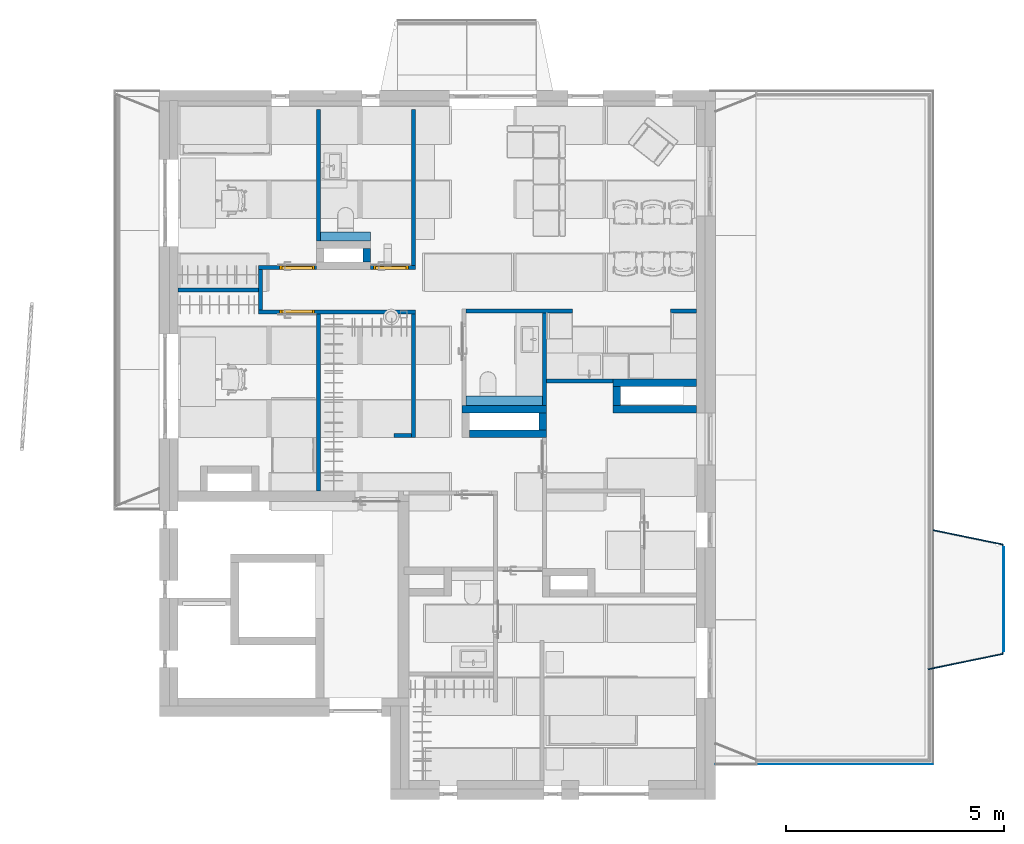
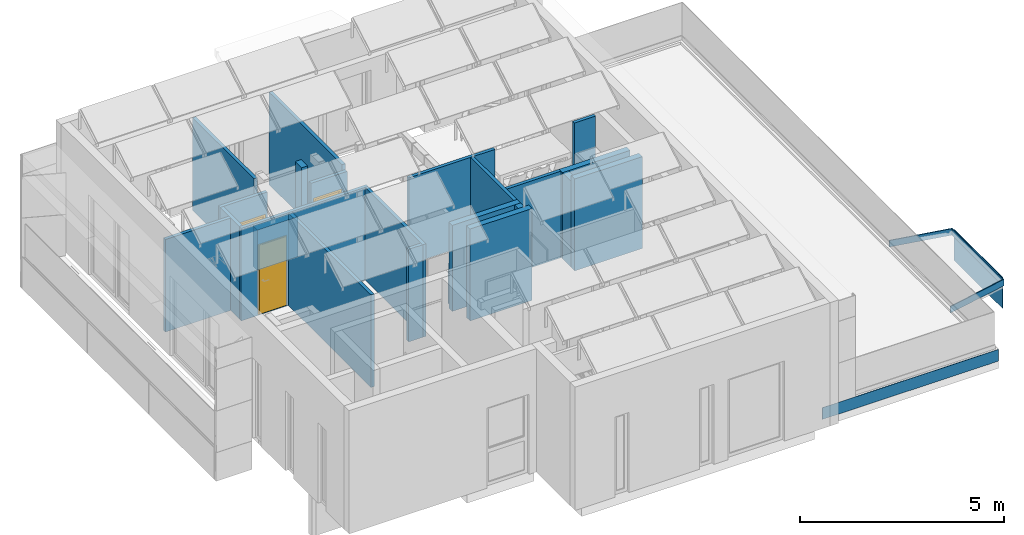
# One storey, part 5 of 57: 28 walls, 3 doors, 3 openings.
"""IFC2X3 building model written with IfcOpenShell, lengths in millimetres."""

from ifc_helpers import new_model, entity, si_unit, converted_unit, direction, frame, frame_2d, origin, place, context, subcontext, project, spatial, polyline, rectangle, outline, extrude, clip, bounded_halfspace, faceted_brep, source, transform, mapped, material, layer, layer_set, layer_usage, type_object, type_shapes, element, fill, save


model = new_model("IFC2X3")

# Units and contexts
model_context = context("Model", 3, precision=0.01, world=origin(), true_north=direction((6.123233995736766e-17, 1.0)))
plan_context = context("Plan", 3, precision=0.01, world=origin(), true_north=direction((6.123233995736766e-17, 1.0)))
body_context = subcontext(model_context, "Body", "Model", "MODEL_VIEW")
ifc_project = project(units=[si_unit("LENGTHUNIT", "METRE", prefix="MILLI"), converted_unit("PLANEANGLEUNIT", "DEGREE", entity("IfcPlaneAngleMeasure", 0.017453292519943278), si_unit("PLANEANGLEUNIT", "RADIAN"), dimensions=[0, 0, 0, 0, 0, 0, 0]), si_unit("AREAUNIT", "SQUARE_METRE")], contexts=[model_context, plan_context])

# Site, building, storey
site_placement = place(None, origin())
site = spatial("IfcSite", under=ifc_project, at=site_placement, Name="Default", CompositionType="ELEMENT")
building_placement = place(site_placement, origin())
building = spatial("IfcBuilding", under=site, at=building_placement, CompositionType="ELEMENT")
storey_placement = place(building_placement, frame((0.0, 0.0, 12811.000000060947)))
storey = spatial("IfcBuildingStorey", under=building, at=storey_placement, Name="5K", CompositionType="ELEMENT", Elevation=12811.000000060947)

# Wall, opening, door
ifc_material_1 = material(Name="_K. Ehitusplaat. Kipsplaat. Erikõva")
ifc_layer_1 = layer(ifc_material_1, 13.000000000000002)
ifc_material_2 = material(Name="_K. Soojustus. Mineraalvill")
ifc_layer_2 = layer(ifc_material_2, 66.0)
ifc_layer_3 = layer(ifc_material_1, 13.000000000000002)
ifc_layer_set_1 = layer_set([ifc_layer_1, ifc_layer_2, ifc_layer_3], Name="Basic Wall:SS-401")
ifc_layer_usage_1 = layer_usage(ifc_layer_set_1, "AXIS2", "NEGATIVE", 46.00000000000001)
wall_type_1 = type_object("IfcWallType", Name="Basic Wall:SS-401", PredefinedType="STANDARD", material=ifc_layer_set_1)
wall_1_placement = place(storey_placement, frame((4420.0, 11776.0, -20.0)))
wall_1 = element("IfcWallStandardCase", 1, at=wall_1_placement, inside=storey, type_object=wall_type_1, material=ifc_layer_usage_1, Name="Basic Wall:SS-401", ObjectType="Basic Wall:SS-401", context=body_context, shape_type="SweptSolid", body=[
    extrude(rectangle(XDim=1023.9999999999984, YDim=92.00000000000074, at=frame_2d((511.9999999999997, -4.014566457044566e-13), x_axis=(-1.0, 0.0))), origin(), (0.0, 0.0, 1.0), 2593.9999999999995),
])
opening_1_placement = place(wall_1_placement, frame((-4420.0, -11776.0, 20.0)))
opening_1 = element("IfcOpeningElement", 2, at=opening_1_placement, cuts=wall_1, Name="Basic Wall:SS-401", ObjectType="Opening", context=body_context, shape_type="Brep", body=[
    faceted_brep([(5286.0, 10730.0, 2100.0), (4486.0, 10730.0, 2100.0), (4486.0, 10730.0, 0.0), (5286.0, 10730.0, 0.0), (5286.0, 12822.0, 0.0), (5286.0, 12822.0, 2100.0), (4486.0, 12822.0, 0.0), (4486.0, 12822.0, 2100.0)], [[[0, 1, 2, 3]], [[3, 4, 5, 0]], [[2, 6, 4, 3]], [[1, 7, 6, 2]], [[5, 7, 1, 0]], [[7, 5, 4, 6]]]),
])
ifc_material_3 = material(Name="_K. Puit. Peitsitud ja lakitud")
door_style_1 = type_object("IfcDoorStyle", Name="HR_Generic_Hinged_Single:Default. Manteluks lävepakuga. 800 x 2100 mm. Left", ConstructionType="NOTDEFINED", OperationType="NOTDEFINED", ParameterTakesPrecedence=False, Sizeable=False, material=ifc_material_3)
shared_shape_1 = source(origin(), body_context, "Body", "Brep", [
    faceted_brep([(765.0, -1000.0, 20.0), (35.0, -1000.0, 20.0), (35.0, -1030.0, 20.0), (50.0, -1030.0, 20.0), (50.0, -1092.0, 20.0), (750.0, -1092.0, 20.0), (750.0, -1030.0, 20.0), (765.0, -1030.0, 20.0), (35.0, -1000.0, 0.0), (765.0, -1000.0, 0.0), (765.0, -1030.0, 0.0), (750.0, -1030.0, 0.0), (750.0, -1092.0, 0.0), (50.0, -1092.0, 0.0), (50.0, -1030.0, 0.0), (35.0, -1030.0, 0.0)], [[[0, 1, 2, 3, 4, 5, 6, 7]], [[8, 9, 10, 11, 12, 13, 14, 15]], [[1, 0, 9, 8]], [[5, 4, 13, 12]], [[2, 1, 8, 15]], [[0, 7, 10, 9]], [[3, 14, 13, 4]], [[14, 3, 2, 15]], [[6, 11, 10, 7]], [[11, 6, 5, 12]]]),
    faceted_brep([(37.0, -1030.0, 2060.0), (37.0, -1030.0, 25.0), (763.0, -1030.0, 25.0), (763.0, -1030.0, 2060.0), (27.0, -990.0, 25.0), (27.0, -990.0, 2070.0), (773.0, -990.0, 2070.0), (773.0, -990.0, 25.0), (37.0, -1000.0, 2060.0), (37.0, -1000.0, 25.0), (27.0, -1000.0, 25.0), (773.0, -1000.0, 25.0), (763.0, -1000.0, 25.0), (763.0, -1000.0, 2060.0), (27.0, -1000.0, 2070.0), (773.0, -1000.0, 2070.0)], [[[0, 1, 2, 3]], [[4, 5, 6, 7]], [[1, 0, 8, 9]], [[2, 1, 9, 10, 4, 7, 11, 12]], [[3, 2, 12, 13]], [[0, 3, 13, 8]], [[14, 10, 9, 8, 13, 12, 11, 15]], [[6, 5, 14, 15]], [[7, 6, 15, 11]], [[5, 4, 10, 14]]]),
    faceted_brep([(800.0, -1092.0, 0.0), (750.0, -1092.0, 0.0), (750.0, -1030.0, 0.0), (765.0, -1030.0, 0.0), (765.0, -1000.0, 0.0), (800.0, -1000.0, 0.0), (800.0, -1092.0, 2100.0), (0.0, -1092.0, 2100.0), (0.0, -1092.0, 0.0), (50.0, -1092.0, 0.0), (50.0, -1092.0, 2050.0), (750.0, -1092.0, 2050.0), (750.0, -1030.0, 2050.0), (35.0, -1030.0, 2065.0), (765.0, -1030.0, 2065.0), (50.0, -1030.0, 2050.0), (50.0, -1030.0, 0.0), (35.0, -1030.0, 0.0), (765.0, -1000.0, 2065.0), (0.0, -1000.0, 0.0), (0.0, -1000.0, 2100.0), (800.0, -1000.0, 2100.0), (35.0, -1000.0, 2065.0), (35.0, -1000.0, 0.0)], [[[0, 1, 2, 3, 4, 5]], [[1, 0, 6, 7, 8, 9, 10, 11]], [[1, 11, 12, 2]], [[13, 14, 3, 2, 12, 15, 16, 17]], [[3, 14, 18, 4]], [[19, 20, 21, 5, 4, 18, 22, 23]], [[0, 5, 21, 6]], [[8, 19, 23, 17, 16, 9]], [[19, 8, 7, 20]], [[13, 17, 23, 22]], [[10, 9, 16, 15]], [[7, 6, 21, 20]], [[11, 10, 15, 12]], [[14, 13, 22, 18]]]),
])
type_shapes(door_style_1, [shared_shape_1])
door_1_placement = place(opening_1_placement, frame((4486.0, 12822.0, 0.0)))
door_1 = element("IfcDoor", 3, at=door_1_placement, inside=storey, type_object=door_style_1, material=ifc_material_3, Name="HR_Generic_Hinged_Single:Default. Manteluks lävepakuga. 800 x 2100 mm. Left", ObjectType="HR_Generic_Hinged_Single:Default. Manteluks lävepakuga. 800 x 2100 mm. Left", OverallHeight=2130.000000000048, OverallWidth=860.0000000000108, context=body_context, shape_type="MappedRepresentation", body=[
    mapped(shared_shape_1, transform((0.0, 0.0, 0.0), scale=1.0)),
])
fill(opening_1, door_1)

# Walls
ifc_layer_usage_2 = layer_usage(ifc_layer_set_1, "AXIS2", "NEGATIVE", 46.00000000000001)
wall_2_placement = place(storey_placement, frame((3226.0, 12380.0, -20.0), z_axis=(0.0, 0.0, 1.0), x_axis=(0.0, 1.0, 0.0)))
element("IfcWallStandardCase", 4, at=wall_2_placement, inside=storey, type_object=wall_type_1, material=ifc_layer_usage_2, Name="Basic Wall:SS-401", ObjectType="Basic Wall:SS-401", context=body_context, shape_type="SweptSolid", body=[
    extrude(rectangle(XDim=3019.9999999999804, YDim=91.99999999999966, at=frame_2d((1509.9999999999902, 8.526512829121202e-14), x_axis=(-1.0, 0.0))), origin(), (0.0, 0.0, 1.0), 2769.998712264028),
])
ifc_layer_usage_3 = layer_usage(ifc_layer_set_1, "AXIS2", "NEGATIVE", 46.00000000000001)
wall_3_placement = place(storey_placement, frame((5398.0, 11822.0, -20.0), z_axis=(0.0, 0.0, 1.0), x_axis=(0.0, 1.0, 0.0)))
element("IfcWallStandardCase", 5, at=wall_3_placement, inside=storey, type_object=wall_type_1, material=ifc_layer_usage_3, Name="Basic Wall:SS-401", ObjectType="Basic Wall:SS-401", context=body_context, shape_type="SweptSolid", body=[
    extrude(rectangle(XDim=3577.9999999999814, YDim=92.00000000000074, at=frame_2d((1788.9999999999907, 2.8066438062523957e-13), x_axis=(-1.0, 0.0))), origin(), (0.0, 0.0, 1.0), 2769.998712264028),
])

# Wall, opening, door
ifc_layer_usage_4 = layer_usage(ifc_layer_set_1, "AXIS2", "NEGATIVE", 46.00000000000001)
wall_4_placement = place(storey_placement, frame((1848.0, 11776.0, -20.0)))
wall_4 = element("IfcWallStandardCase", 6, at=wall_4_placement, inside=storey, type_object=wall_type_1, material=ifc_layer_usage_4, Name="Basic Wall:SS-401", ObjectType="Basic Wall:SS-401", context=body_context, shape_type="SweptSolid", body=[
    extrude(rectangle(XDim=1331.9999999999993, YDim=92.00000000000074, at=frame_2d((665.9999999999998, -2.035704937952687e-12), x_axis=(-1.0, 0.0))), origin(), (0.0, 0.0, 1.0), 2769.998712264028),
])
opening_2_placement = place(wall_4_placement, frame((-1848.0, -11776.0, 20.0)))
opening_2 = element("IfcOpeningElement", 7, at=opening_2_placement, cuts=wall_4, Name="Basic Wall:SS-401", ObjectType="Opening", context=body_context, shape_type="Brep", body=[
    faceted_brep([(3130.0, 10730.0, 2100.0), (2330.0, 10730.0, 2100.0), (2330.0, 10730.0, 0.0), (3130.0, 10730.0, 0.0), (3130.0, 12822.0, 0.0), (3130.0, 12822.0, 2100.0), (2330.0, 12822.0, 0.0), (2330.0, 12822.0, 2100.0)], [[[0, 1, 2, 3]], [[3, 4, 5, 0]], [[2, 6, 4, 3]], [[1, 7, 6, 2]], [[5, 7, 1, 0]], [[7, 5, 4, 6]]]),
])
door_2_placement = place(opening_2_placement, frame((2330.0, 12822.0, 0.0)))
door_2 = element("IfcDoor", 8, at=door_2_placement, inside=storey, type_object=door_style_1, material=ifc_material_3, Name="HR_Generic_Hinged_Single:Default. Manteluks lävepakuga. 800 x 2100 mm. Left", ObjectType="HR_Generic_Hinged_Single:Default. Manteluks lävepakuga. 800 x 2100 mm. Left", OverallHeight=2130.000000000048, OverallWidth=860.0000000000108, context=body_context, shape_type="MappedRepresentation", body=[
    mapped(shared_shape_1, transform((0.0, 0.0, 0.0), scale=1.0)),
])
fill(opening_2, door_2)

ifc_layer_usage_5 = layer_usage(ifc_layer_set_1, "AXIS2", "NEGATIVE", 46.00000000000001)
wall_5_placement = place(storey_placement, frame((1848.0, 10747.0, -20.0)))
wall_5 = element("IfcWallStandardCase", 9, at=wall_5_placement, inside=storey, type_object=wall_type_1, material=ifc_layer_usage_5, Name="Basic Wall:SS-401", ObjectType="Basic Wall:SS-401", context=body_context, shape_type="SweptSolid", body=[
    extrude(rectangle(XDim=3595.999999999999, YDim=92.00000000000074, at=frame_2d((1797.9999999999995, -2.984279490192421e-13), x_axis=(-1.0, 0.0))), origin(), (0.0, 0.0, 1.0), 2769.998712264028),
])
opening_3_placement = place(wall_5_placement, frame((-1848.0, -10747.0, 20.0)))
opening_3 = element("IfcOpeningElement", 10, at=opening_3_placement, cuts=wall_5, Name="Basic Wall:SS-401", ObjectType="Opening", context=body_context, shape_type="Brep", body=[
    faceted_brep([(2330.0, 11793.0, 2100.0), (3130.0, 11793.0, 2100.0), (3130.0, 11793.0, 0.0), (2330.0, 11793.0, 0.0), (2330.0, 9701.0, 0.0), (2330.0, 9701.0, 2100.0), (3130.0, 9701.0, 0.0), (3130.0, 9701.0, 2100.0)], [[[0, 1, 2, 3]], [[3, 4, 5, 0]], [[2, 6, 4, 3]], [[1, 7, 6, 2]], [[5, 7, 1, 0]], [[7, 5, 4, 6]]]),
])
door_style_2 = type_object("IfcDoorStyle", Name="HR_Generic_Hinged_Single:Default. Manteluks lävepakuga. 800 x 2100 mm. Right", ConstructionType="NOTDEFINED", OperationType="NOTDEFINED", ParameterTakesPrecedence=False, Sizeable=False, material=ifc_material_3)
shared_shape_2 = source(origin(), body_context, "Body", "Brep", [
    faceted_brep([(765.0, 1092.0, 20.0), (35.0, 1092.0, 20.0), (35.0, 1062.0, 20.0), (50.0, 1062.0, 20.0), (50.0, 1000.0, 20.0), (750.0, 1000.0, 20.0), (750.0, 1062.0, 20.0), (765.0, 1062.0, 20.0), (35.0, 1092.0, 0.0), (765.0, 1092.0, 0.0), (765.0, 1062.0, 0.0), (750.0, 1062.0, 0.0), (750.0, 1000.0, 0.0), (50.0, 1000.0, 0.0), (50.0, 1062.0, 0.0), (35.0, 1062.0, 0.0)], [[[0, 1, 2, 3, 4, 5, 6, 7]], [[8, 9, 10, 11, 12, 13, 14, 15]], [[1, 0, 9, 8]], [[5, 4, 13, 12]], [[2, 1, 8, 15]], [[0, 7, 10, 9]], [[3, 14, 13, 4]], [[14, 3, 2, 15]], [[6, 11, 10, 7]], [[11, 6, 5, 12]]]),
    faceted_brep([(37.0, 1062.0, 2060.0), (37.0, 1062.0, 25.0), (763.0, 1062.0, 25.0), (763.0, 1062.0, 2060.0), (27.0, 1102.0, 25.0), (27.0, 1102.0, 2070.0), (773.0, 1102.0, 2070.0), (773.0, 1102.0, 25.0), (37.0, 1092.0, 2060.0), (37.0, 1092.0, 25.0), (27.0, 1092.0, 25.0), (773.0, 1092.0, 25.0), (763.0, 1092.0, 25.0), (763.0, 1092.0, 2060.0), (27.0, 1092.0, 2070.0), (773.0, 1092.0, 2070.0)], [[[0, 1, 2, 3]], [[4, 5, 6, 7]], [[1, 0, 8, 9]], [[2, 1, 9, 10, 4, 7, 11, 12]], [[3, 2, 12, 13]], [[0, 3, 13, 8]], [[14, 10, 9, 8, 13, 12, 11, 15]], [[6, 5, 14, 15]], [[7, 6, 15, 11]], [[5, 4, 10, 14]]]),
    faceted_brep([(800.0, 1000.0, 0.0), (750.0, 1000.0, 0.0), (750.0, 1062.0, 0.0), (765.0, 1062.0, 0.0), (765.0, 1092.0, 0.0), (800.0, 1092.0, 0.0), (800.0, 1000.0, 2100.0), (0.0, 1000.0, 2100.0), (0.0, 1000.0, 0.0), (50.0, 1000.0, 0.0), (50.0, 1000.0, 2050.0), (750.0, 1000.0, 2050.0), (750.0, 1062.0, 2050.0), (35.0, 1062.0, 2065.0), (765.0, 1062.0, 2065.0), (50.0, 1062.0, 2050.0), (50.0, 1062.0, 0.0), (35.0, 1062.0, 0.0), (765.0, 1092.0, 2065.0), (0.0, 1092.0, 0.0), (0.0, 1092.0, 2100.0), (800.0, 1092.0, 2100.0), (35.0, 1092.0, 2065.0), (35.0, 1092.0, 0.0)], [[[0, 1, 2, 3, 4, 5]], [[1, 0, 6, 7, 8, 9, 10, 11]], [[1, 11, 12, 2]], [[13, 14, 3, 2, 12, 15, 16, 17]], [[3, 14, 18, 4]], [[19, 20, 21, 5, 4, 18, 22, 23]], [[0, 5, 21, 6]], [[8, 19, 23, 17, 16, 9]], [[19, 8, 7, 20]], [[13, 17, 23, 22]], [[10, 9, 16, 15]], [[7, 6, 21, 20]], [[11, 10, 15, 12]], [[14, 13, 22, 18]]]),
])
type_shapes(door_style_2, [shared_shape_2])
door_3_placement = place(opening_3_placement, frame((3130.0, 11793.0, 0.0), z_axis=(0.0, 0.0, 1.0), x_axis=(-1.0, 0.0, 0.0)))
door_3 = element("IfcDoor", 11, at=door_3_placement, inside=storey, type_object=door_style_2, material=ifc_material_3, Name="HR_Generic_Hinged_Single:Default. Manteluks lävepakuga. 800 x 2100 mm. Right", ObjectType="HR_Generic_Hinged_Single:Default. Manteluks lävepakuga. 800 x 2100 mm. Right", OverallHeight=2130.000000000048, OverallWidth=860.0000000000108, context=body_context, shape_type="MappedRepresentation", body=[
    mapped(shared_shape_2, transform((0.0, 0.0, 0.0), scale=1.0)),
])
fill(opening_3, door_3)

# Walls
ifc_layer_usage_6 = layer_usage(ifc_layer_set_1, "AXIS2", "NEGATIVE", 46.00000000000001)
wall_6_placement = place(storey_placement, frame((5398.0, 7870.0, -20.0), z_axis=(0.0, 0.0, 1.0), x_axis=(0.0, 1.0, 0.0)))
element("IfcWallStandardCase", 12, at=wall_6_placement, inside=storey, type_object=wall_type_1, material=ifc_layer_usage_6, Name="Basic Wall:SS-401", ObjectType="Basic Wall:SS-401", context=body_context, shape_type="SweptSolid", body=[
    extrude(rectangle(XDim=2830.9999999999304, YDim=92.00000000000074, at=frame_2d((1415.4999999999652, -3.446132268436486e-13), x_axis=(-1.0, 0.0))), origin(), (0.0, 0.0, 1.0), 2769.998712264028),
])
ifc_layer_usage_7 = layer_usage(ifc_layer_set_1, "AXIS2", "NEGATIVE", 46.00000000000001)
wall_7_placement = place(storey_placement, frame((1894.0, 10793.0, -20.0), z_axis=(0.0, 0.0, 1.0), x_axis=(0.0, 1.0, 0.0)))
element("IfcWallStandardCase", 13, at=wall_7_placement, inside=storey, type_object=wall_type_1, material=ifc_layer_usage_7, Name="Basic Wall:SS-401", ObjectType="Basic Wall:SS-401", context=body_context, shape_type="SweptSolid", body=[
    extrude(rectangle(XDim=937.0000000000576, YDim=92.0000000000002, at=frame_2d((468.5000000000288, 1.0658141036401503e-13), x_axis=(-1.0, 0.0))), origin(), (0.0, 0.0, 1.0), 2769.998712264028),
])
ifc_layer_usage_8 = layer_usage(ifc_layer_set_1, "AXIS2", "NEGATIVE", 46.00000000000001)
wall_8_placement = place(storey_placement, frame((0.0, 11261.499999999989, -20.0)))
element("IfcWallStandardCase", 14, at=wall_8_placement, inside=storey, type_object=wall_type_1, material=ifc_layer_usage_8, Name="Basic Wall:SS-401", ObjectType="Basic Wall:SS-401", context=body_context, shape_type="SweptSolid", body=[
    extrude(rectangle(XDim=1848.0000000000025, YDim=92.00000000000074, at=frame_2d((924.0000000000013, -6.394884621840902e-14), x_axis=(-1.0, 0.0))), origin(), (0.0, 0.0, 1.0), 2769.998712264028),
])
ifc_layer_usage_9 = layer_usage(ifc_layer_set_1, "AXIS2", "NEGATIVE", 46.00000000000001)
wall_9_placement = place(storey_placement, frame((3226.0, 6644.999959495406, -20.0), z_axis=(0.0, 0.0, 1.0), x_axis=(0.0, 1.0, 0.0)))
element("IfcWallStandardCase", 15, at=wall_9_placement, inside=storey, type_object=wall_type_1, material=ifc_layer_usage_9, Name="Basic Wall:SS-401", ObjectType="Basic Wall:SS-401", context=body_context, shape_type="SweptSolid", body=[
    extrude(rectangle(XDim=4056.0000405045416, YDim=91.99999999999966, at=frame_2d((2028.0000202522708, -1.3500311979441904e-13), x_axis=(-1.0, 0.0))), origin(), (0.0, 0.0, 1.0), 2769.998712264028),
])
ifc_layer_usage_10 = layer_usage(ifc_layer_set_1, "AXIS2", "NEGATIVE", 46.00000000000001)
wall_10_placement = place(storey_placement, frame((8404.0, 8610.0, -20.0), z_axis=(0.0, 0.0, 1.0), x_axis=(0.0, 1.0, 0.0)))
element("IfcWallStandardCase", 16, at=wall_10_placement, inside=storey, type_object=wall_type_1, material=ifc_layer_usage_10, Name="Basic Wall:SS-401", ObjectType="Basic Wall:SS-401", context=body_context, shape_type="SweptSolid", body=[
    extrude(rectangle(XDim=2122.9999999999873, YDim=92.00000000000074, at=frame_2d((1061.4999999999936, 1.4921397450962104e-13), x_axis=(-1.0, 0.0))), origin(), (0.0, 0.0, 1.0), 2593.9999999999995),
])
ifc_layer_usage_11 = layer_usage(ifc_layer_set_1, "AXIS2", "NEGATIVE", 46.00000000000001)
wall_11_placement = place(storey_placement, frame((8450.0, 9164.0, -20.0)))
element("IfcWallStandardCase", 17, at=wall_11_placement, inside=storey, type_object=wall_type_1, material=ifc_layer_usage_11, Name="Basic Wall:SS-401", ObjectType="Basic Wall:SS-401", context=body_context, shape_type="SweptSolid", body=[
    extrude(rectangle(XDim=1529.9999999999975, YDim=92.00000000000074, at=frame_2d((764.9999999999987, -7.105427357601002e-14), x_axis=(-1.0, 0.0))), origin(), (0.0, 0.0, 1.0), 2593.9999999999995),
])
ifc_layer_usage_12 = layer_usage(ifc_layer_set_1, "AXIS2", "NEGATIVE", 46.00000000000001)
wall_12_placement = place(storey_placement, frame((11300.0, 10779.0, -20.0)))
element("IfcWallStandardCase", 18, at=wall_12_placement, inside=storey, type_object=wall_type_1, material=ifc_layer_usage_12, Name="Basic Wall:SS-401", ObjectType="Basic Wall:SS-401", context=body_context, shape_type="SweptSolid", body=[
    extrude(rectangle(XDim=600.0000000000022, YDim=92.00000000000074, at=frame_2d((300.0000000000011, -4.973799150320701e-14), x_axis=(-1.0, 0.0))), origin(), (0.0, 0.0, 1.0), 2593.9999999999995),
])
ifc_layer_usage_13 = layer_usage(ifc_layer_set_1, "AXIS2", "NEGATIVE", 46.00000000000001)
wall_13_placement = place(storey_placement, frame((6612.0, 10779.0, -20.0)))
element("IfcWallStandardCase", 19, at=wall_13_placement, inside=storey, type_object=wall_type_1, material=ifc_layer_usage_13, Name="Basic Wall:SS-401", ObjectType="Basic Wall:SS-401", context=body_context, shape_type="SweptSolid", body=[
    extrude(rectangle(XDim=2438.000000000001, YDim=92.00000000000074, at=frame_2d((1219.0000000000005, -1.3145040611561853e-13), x_axis=(-1.0, 0.0))), origin(), (0.0, 0.0, 1.0), 2593.9999999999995),
])
ifc_layer_usage_14 = layer_usage(ifc_layer_set_1, "AXIS2", "NEGATIVE", 46.00000000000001)
wall_14_placement = place(storey_placement, frame((4952.0, 7916.0, -20.0)))
element("IfcWallStandardCase", 20, at=wall_14_placement, inside=storey, type_object=wall_type_1, material=ifc_layer_usage_14, Name="Basic Wall:SS-401", ObjectType="Basic Wall:SS-401", context=body_context, shape_type="SweptSolid", body=[
    extrude(rectangle(XDim=400.0000000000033, YDim=92.00000000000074, at=frame_2d((200.00000000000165, 1.4921397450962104e-13), x_axis=(-1.0, 0.0))), origin(), (0.0, 0.0, 1.0), 2769.998712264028),
])
ifc_material_4 = material(Name="_K. Väisviimistlus. Krohv. Valge")
ifc_layer_4 = layer(ifc_material_4, 10.0)
ifc_material_5 = material(Name="_K. Müüritis. Väikeplokk. Kergkruusplokk")
ifc_layer_5 = layer(ifc_material_5, 150.0)
ifc_layer_6 = layer(ifc_material_4, 10.0)
ifc_layer_set_2 = layer_set([ifc_layer_4, ifc_layer_5, ifc_layer_6], Name="Basic Wall:SS-03. Šahti sein")
ifc_layer_usage_15 = layer_usage(ifc_layer_set_2, "AXIS2", "NEGATIVE", 85.00000000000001)
wall_type_2 = type_object("IfcWallType", Name="Basic Wall:SS-03. Šahti sein", PredefinedType="STANDARD", material=ifc_layer_set_2)
wall_15_placement = place(storey_placement, frame((9980.0, 9125.0, 0.0)))
element("IfcWallStandardCase", 21, at=wall_15_placement, inside=storey, type_object=wall_type_2, material=ifc_layer_usage_15, Name="Basic Wall:SS-03. Šahti sein", ObjectType="Basic Wall:SS-03. Šahti sein", context=body_context, shape_type="SweptSolid", body=[
    extrude(rectangle(XDim=1920.0000000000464, YDim=170.00000000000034, at=frame_2d((960.0000000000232, -1.6342482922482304e-13), x_axis=(-1.0, 0.0))), origin(), (0.0, 0.0, 1.0), 2573.9999237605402),
])
ifc_layer_usage_16 = layer_usage(ifc_layer_set_2, "AXIS2", "NEGATIVE", 85.00000000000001)
wall_16_placement = place(storey_placement, frame((6520.0, 8525.0, 0.0)))
element("IfcWallStandardCase", 22, at=wall_16_placement, inside=storey, type_object=wall_type_2, material=ifc_layer_usage_16, Name="Basic Wall:SS-03. Šahti sein", ObjectType="Basic Wall:SS-03. Šahti sein", context=body_context, shape_type="SweptSolid", body=[
    extrude(rectangle(XDim=1930.000000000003, YDim=170.00000000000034, at=frame_2d((965.0000000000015, -1.4210854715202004e-13), x_axis=(-1.0, 0.0))), origin(), (0.0, 0.0, 1.0), 2573.9999237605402),
])
ifc_layer_usage_17 = layer_usage(ifc_layer_set_2, "AXIS2", "NEGATIVE", 85.00000000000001)
wall_17_placement = place(storey_placement, frame((9980.0, 8525.0, 0.0)))
element("IfcWallStandardCase", 23, at=wall_17_placement, inside=storey, type_object=wall_type_2, material=ifc_layer_usage_17, Name="Basic Wall:SS-03. Šahti sein", ObjectType="Basic Wall:SS-03. Šahti sein", context=body_context, shape_type="SweptSolid", body=[
    extrude(rectangle(XDim=1920.0000000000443, YDim=170.00000000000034, at=frame_2d((960.0000000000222, 5.684341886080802e-14), x_axis=(-1.0, 0.0))), origin(), (0.0, 0.0, 1.0), 2749.998712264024),
])
ifc_layer_usage_18 = layer_usage(ifc_layer_set_2, "AXIS2", "POSITIVE", -85.00000000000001)
wall_18_placement = place(storey_placement, frame((10065.0, 9040.0, 0.0), z_axis=(0.0, 0.0, 1.0), x_axis=(0.0, -1.0, 0.0)))
element("IfcWallStandardCase", 24, at=wall_18_placement, inside=storey, type_object=wall_type_2, material=ifc_layer_usage_18, Name="Basic Wall:SS-03. Šahti sein", ObjectType="Basic Wall:SS-03. Šahti sein", context=body_context, shape_type="SweptSolid", body=[
    extrude(rectangle(XDim=430.00000000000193, YDim=170.00000000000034, at=frame_2d((215.00000000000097, 3.765876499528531e-13), x_axis=(-1.0, 0.0))), origin(), (0.0, 0.0, 1.0), 2573.9999237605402),
])
ifc_layer_usage_19 = layer_usage(ifc_layer_set_2, "AXIS2", "POSITIVE", -85.00000000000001)
wall_19_placement = place(storey_placement, frame((6690.0, 7955.0, 0.0)))
element("IfcWallStandardCase", 25, at=wall_19_placement, inside=storey, type_object=wall_type_2, material=ifc_layer_usage_19, Name="Basic Wall:SS-03. Šahti sein", ObjectType="Basic Wall:SS-03. Šahti sein", context=body_context, shape_type="SweptSolid", body=[
    extrude(rectangle(XDim=1760.0000000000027, YDim=170.00000000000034, at=frame_2d((880.0000000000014, -1.2079226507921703e-13), x_axis=(-1.0, 0.0))), origin(), (0.0, 0.0, 1.0), 2749.998712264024),
])
ifc_layer_usage_20 = layer_usage(ifc_layer_set_2, "AXIS2", "NEGATIVE", 85.00000000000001)
wall_20_placement = place(storey_placement, frame((8365.0, 8440.0, 0.0), z_axis=(0.0, 0.0, 1.0), x_axis=(0.0, -1.0, 0.0)))
element("IfcWallStandardCase", 26, at=wall_20_placement, inside=storey, type_object=wall_type_2, material=ifc_layer_usage_20, Name="Basic Wall:SS-03. Šahti sein", ObjectType="Basic Wall:SS-03. Šahti sein", context=body_context, shape_type="SweptSolid", body=[
    extrude(rectangle(XDim=400.00000000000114, YDim=170.00000000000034, at=frame_2d((200.00000000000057, 1.4210854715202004e-13), x_axis=(-1.0, 0.0))), origin(), (0.0, 0.0, 1.0), 2573.9999237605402),
])
ifc_layer_usage_21 = layer_usage(ifc_layer_set_2, "AXIS2", "NEGATIVE", 85.00000000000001)
wall_21_placement = place(storey_placement, frame((4335.0, 12210.0, 0.0), z_axis=(0.0, 0.0, 1.0), x_axis=(0.0, -1.0, 0.0)))
element("IfcWallStandardCase", 27, at=wall_21_placement, inside=storey, type_object=wall_type_2, material=ifc_layer_usage_21, Name="Basic Wall:SS-03. Šahti sein", ObjectType="Basic Wall:SS-03. Šahti sein", context=body_context, shape_type="SweptSolid", body=[
    extrude(rectangle(XDim=310.0000000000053, YDim=170.00000000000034, at=frame_2d((155.00000000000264, 2.1316282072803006e-13), x_axis=(-1.0, 0.0))), origin(), (0.0, 0.0, 1.0), 2993.9999999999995),
])
ifc_layer_7 = layer(ifc_material_4, 10.0)
ifc_layer_set_3 = layer_set([ifc_layer_7], Name="Basic Wall:VS-01 krohv")
ifc_layer_usage_22 = layer_usage(ifc_layer_set_3, "AXIS2", "NEGATIVE", 5.0)
wall_type_3 = type_object("IfcWallType", Name="Basic Wall:VS-01 krohv", PredefinedType="STANDARD", material=ifc_layer_set_3)
wall_22_placement = place(storey_placement, frame((17320.0, 375.0, -375.625832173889), z_axis=(0.0, 0.0, 1.0), x_axis=(-1.0, 0.0, 0.0)))
element("IfcWallStandardCase", 28, at=wall_22_placement, inside=storey, type_object=wall_type_3, material=ifc_layer_usage_22, Name="Basic Wall:VS-01 krohv", ObjectType="Basic Wall:VS-01 krohv", context=body_context, shape_type="Clipping", body=[
    clip(clip(extrude(rectangle(XDim=4990.0000000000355, YDim=10.000000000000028, at=frame_2d((2495.0000000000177, 1.021405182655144e-14), x_axis=(-1.0, 0.0))), origin(), (0.0, 0.0, 1.0), 350.62583217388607), bounded_halfspace(frame((230.0, -5.0, 4.625977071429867), z_axis=(1.0, 0.0, 0.0), x_axis=(0.0, 1.0, 0.0)), True, frame((230.0, -5.0, 4.625977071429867), z_axis=(1.0, 0.0, 0.0), x_axis=(0.0, 1.0, 0.0)), polyline([(0.0, 0.0), (0.0, -4.625977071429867), (10.0, -4.625977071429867), (10.0, 0.0), (0.0, 0.0)]))), bounded_halfspace(frame((230.0, 5.0, 4.625977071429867), z_axis=(0.0, 0.0, 1.0), x_axis=(-1.0, 0.0, 0.0)), True, frame((230.0, 5.0, 4.625977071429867), z_axis=(0.0, 0.0, 1.0), x_axis=(-1.0, 0.0, 0.0)), polyline([(0.0, 0.0), (230.0, 0.0), (230.0, 10.0), (0.0, 10.0), (0.0, 0.0)]))),
])
ifc_material_6 = material(Name="_K. Välisviimistlus. Alumiinium-komposiitplaat")
ifc_layer_8 = layer(ifc_material_6, 4.0)
ifc_material_7 = material(Name="_K. Õhk. Roov. Fassaadikatte alusroov. Horisontaalne. 25 mm")
ifc_layer_9 = layer(ifc_material_7, 16.0)
ifc_layer_set_4 = layer_set([ifc_layer_8, ifc_layer_9], Name="Basic Wall:VS-komposiit")
ifc_layer_usage_23 = layer_usage(ifc_layer_set_4, "AXIS2", "NEGATIVE", 10.000000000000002)
wall_type_4 = type_object("IfcWallType", Name="Basic Wall:VS-komposiit", PredefinedType="STANDARD")
wall_23_placement = place(storey_placement, frame((18942.0, 5351.353411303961, -938.500000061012), z_axis=(0.0, 0.0, 1.0), x_axis=(0.0, -1.0, 0.0)))
element("IfcWallStandardCase", 29, at=wall_23_placement, inside=storey, type_object=wall_type_4, material=ifc_layer_usage_23, Name="Basic Wall:VS-komposiit", ObjectType="Basic Wall:VS-komposiit", context=body_context, shape_type="SweptSolid", body=[
    extrude(rectangle(XDim=2379.349331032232, YDim=19.999999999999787, at=frame_2d((1189.674665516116, 9.174883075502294e-13), x_axis=(-1.0, 0.0))), origin(), (0.0, 0.0, 1.0), 917.5000000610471),
])
ifc_material_8 = material(Name="_K. Katusekate. Rullmaterjal. SBS")
ifc_layer_10 = layer(ifc_material_8, 10.0)
ifc_material_9 = material(Name="_K. Ehitusplaat. Vineer. Veekindel")
ifc_layer_11 = layer(ifc_material_9, 15.0)
ifc_layer_set_5 = layer_set([ifc_layer_10, ifc_layer_11], Name="Basic Wall:VS-Rõdu parapet")
ifc_layer_usage_24 = layer_usage(ifc_layer_set_5, "AXIS2", "NEGATIVE", 12.5)
wall_type_5 = type_object("IfcWallType", Name="Basic Wall:VS-Rõdu parapet", PredefinedType="STANDARD", material=ifc_layer_set_5)
wall_24_placement = place(storey_placement, frame((17210.0, 2552.8400905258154, -216.0), z_axis=(0.0, 0.0, 1.0), x_axis=(0.9793890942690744, 0.20198267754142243, 0.0)))
element("IfcWallStandardCase", 30, at=wall_24_placement, inside=storey, type_object=wall_type_5, material=ifc_layer_usage_24, Name="Basic Wall:VS-Rõdu parapet", ObjectType="Basic Wall:VS-Rõdu parapet", context=body_context, shape_type="SweptSolid", body=[
    extrude(outline(polyline([(1755.6672989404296, -12.499999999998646), (1760.823068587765, 12.500000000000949), (1735.2969650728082, 12.500000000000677), (0.0, 12.500000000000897), (0.0, -12.499999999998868), (1755.6672989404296, -12.499999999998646)])), origin(), (0.0, 0.0, 1.0), 194.99999999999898),
])
ifc_layer_usage_25 = layer_usage(ifc_layer_set_5, "AXIS2", "NEGATIVE", 12.5)
wall_25_placement = place(storey_placement, frame((18919.506139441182, 2915.5824120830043, -216.0), z_axis=(0.0, 0.0, 1.0), x_axis=(-2.443513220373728e-06, 1.0, 0.0)))
element("IfcWallStandardCase", 31, at=wall_25_placement, inside=storey, type_object=wall_type_5, material=ifc_layer_usage_25, Name="Basic Wall:VS-Rõdu parapet", ObjectType="Basic Wall:VS-Rõdu parapet", context=body_context, shape_type="SweptSolid", body=[
    extrude(outline(polyline([(2512.546724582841, -12.500000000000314), (2517.7025579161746, 12.49999999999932), (2492.176441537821, 12.49999999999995), (0.0, 12.499999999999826), (5.155769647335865, -12.500000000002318), (2512.546724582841, -12.500000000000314)])), origin(), (0.0, 0.0, 1.0), 194.99999999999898),
])
ifc_layer_usage_26 = layer_usage(ifc_layer_set_5, "AXIS2", "NEGATIVE", 12.5)
wall_26_placement = place(storey_placement, frame((18909.52480333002, 5420.00119291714, -216.0), z_axis=(0.0, 0.0, 1.0), x_axis=(-0.9793895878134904, 0.2019802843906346, 0.0)))
element("IfcWallStandardCase", 32, at=wall_26_placement, inside=storey, type_object=wall_type_5, material=ifc_layer_usage_26, Name="Basic Wall:VS-Rõdu parapet", ObjectType="Basic Wall:VS-Rõdu parapet", context=body_context, shape_type="SweptSolid", body=[
    extrude(outline(polyline([(1614.814858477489, -12.50000000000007), (1614.814858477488, 12.499999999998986), (0.0, 12.499999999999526), (5.155833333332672, -12.500000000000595), (1614.814858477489, -12.50000000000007)])), origin(), (0.0, 0.0, 1.0), 194.99999999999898),
])
ifc_layer_12 = layer(ifc_material_1, 13.000000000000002)
ifc_material_10 = material(Name="_K. Õhk. Roov. Fassaadikatte alusroov. Vertikaalne. 25 mm")
ifc_layer_13 = layer(ifc_material_10, 200.0)
ifc_layer_set_6 = layer_set([ifc_layer_12, ifc_layer_13], Name="Basic Wall:SS-403")
ifc_layer_usage_27 = layer_usage(ifc_layer_set_6, "AXIS2", "POSITIVE", -106.5)
wall_type_6 = type_object("IfcWallType", Name="Basic Wall:SS-403", PredefinedType="STANDARD", material=ifc_layer_set_6)
wall_27_placement = place(storey_placement, frame((4420.0, 12486.500000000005, -20.0), z_axis=(0.0, 0.0, 1.0), x_axis=(-1.0, 0.0, 0.0)))
element("IfcWallStandardCase", 33, at=wall_27_placement, inside=storey, type_object=wall_type_6, material=ifc_layer_usage_27, Name="Basic Wall:SS-403", ObjectType="Basic Wall:SS-403", context=body_context, shape_type="SweptSolid", body=[
    extrude(rectangle(XDim=1148.0000000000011, YDim=212.99999999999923, at=frame_2d((574.0000000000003, 9.237055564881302e-14), x_axis=(-1.0, 0.0))), origin(), (0.0, 0.0, 1.0), 1200.0),
])
ifc_layer_usage_28 = layer_usage(ifc_layer_set_6, "AXIS2", "POSITIVE", -106.5)
wall_28_placement = place(storey_placement, frame((8358.0, 8716.499999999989, -20.0), z_axis=(0.0, 0.0, 1.0), x_axis=(-1.0, 0.0, 0.0)))
element("IfcWallStandardCase", 34, at=wall_28_placement, inside=storey, type_object=wall_type_6, material=ifc_layer_usage_28, Name="Basic Wall:SS-403", ObjectType="Basic Wall:SS-403", context=body_context, shape_type="SweptSolid", body=[
    extrude(rectangle(XDim=1746.0000000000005, YDim=212.9999999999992, at=frame_2d((873.0000000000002, -3.765876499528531e-13), x_axis=(-1.0, 0.0))), origin(), (0.0, 0.0, 1.0), 1200.0),
])

save(model, "model.ifc")
